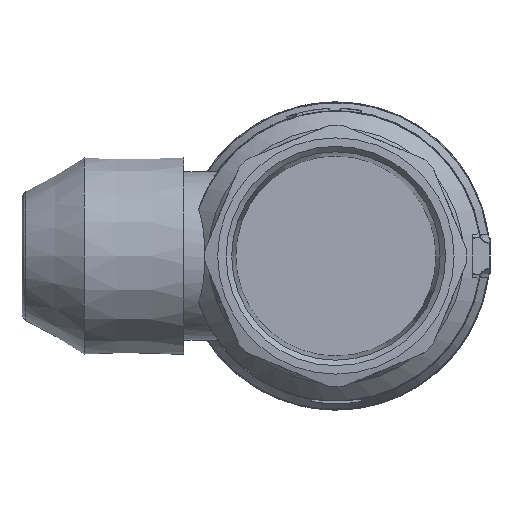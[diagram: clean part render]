
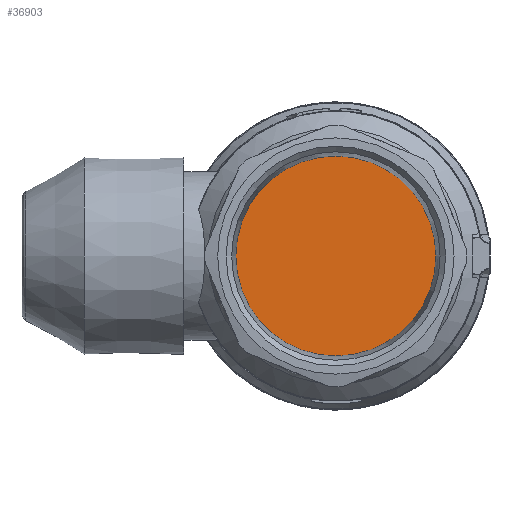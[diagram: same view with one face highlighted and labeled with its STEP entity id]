
A CAD part, left-side view. The second image highlights one B-rep face of the part: STEP entity #36903.
In plain terms, the highlighted planar face has unit normal (-1, 0, 0).
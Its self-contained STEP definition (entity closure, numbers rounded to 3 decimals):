
#36880=CARTESIAN_POINT('',(-54.85,-19.475,0.0));
#36881=VERTEX_POINT('',#36880);
#36882=CARTESIAN_POINT('',(-54.85,0.0,0.0));
#36883=DIRECTION('',(-1.0,0.0,0.0));
#36884=DIRECTION('',(0.0,-1.0,0.0));
#36885=AXIS2_PLACEMENT_3D('',#36882,#36883,#36884);
#36886=CIRCLE('',#36885,19.475);
#36887=EDGE_CURVE('',#36881,#36881,#36886,.T.);
#36895=CARTESIAN_POINT('',(-54.85,-9.737,0.0));
#36896=DIRECTION('',(-1.0,0.0,0.0));
#36897=DIRECTION('',(0.0,0.0,1.0));
#36898=AXIS2_PLACEMENT_3D('',#36895,#36896,#36897);
#36899=PLANE('',#36898);
#36900=ORIENTED_EDGE('',*,*,#36887,.T.);
#36901=EDGE_LOOP('',(#36900));
#36902=FACE_OUTER_BOUND('',#36901,.T.);
#36903=ADVANCED_FACE('',(#36902),#36899,.T.);
